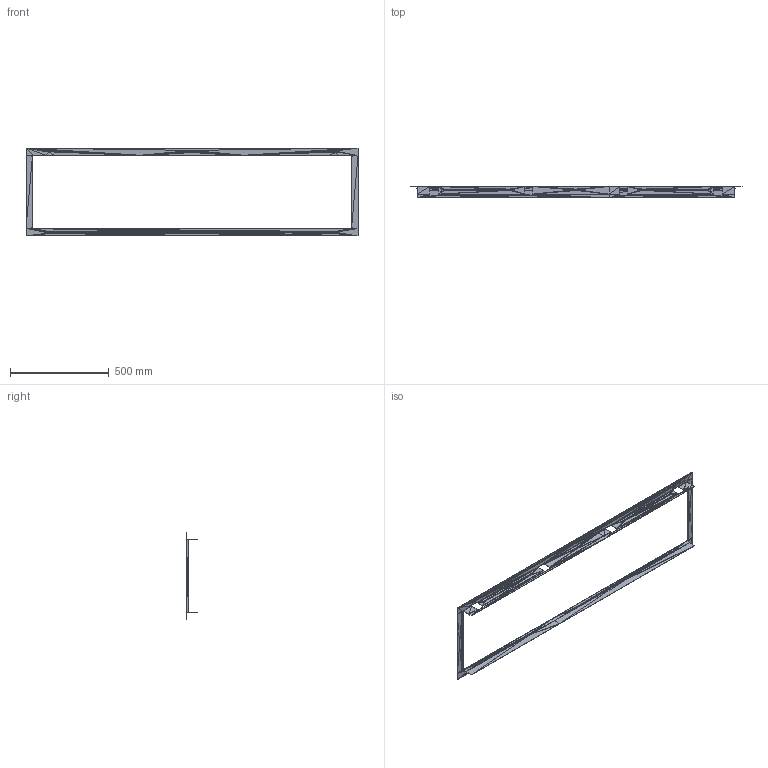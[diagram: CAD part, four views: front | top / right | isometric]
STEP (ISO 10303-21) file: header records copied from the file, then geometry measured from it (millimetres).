
FILE_DESCRIPTION((''),'2;1');
FILE_NAME('004323', '2025-07-23T11:58:09', (''), (''), 'ImageToStl.com STEP Converter','', '');
FILE_SCHEMA(('AUTOMOTIVE_DESIGN_CC2'));
Length unit declared in the file: metre
Products named in the file (1): product0
Bounding box: 1685 x 60 x 446 mm (x, y, z)
Surface area: 700839.7 mm2 (no closed solid volume)
Topology: 0 solids, 1492 shells, 1492 faces, 4476 edges, 710 vertices
Faces by surface type: plane 1492
Entity records: 34272 total; most frequent: DIRECTION 7462, ORIENTED_EDGE 4476, EDGE_CURVE 4476, LINE 4476, VECTOR 4476, AXIS2_PLACEMENT_3D 1493, FACE_SURFACE 1492, PLANE 1492
